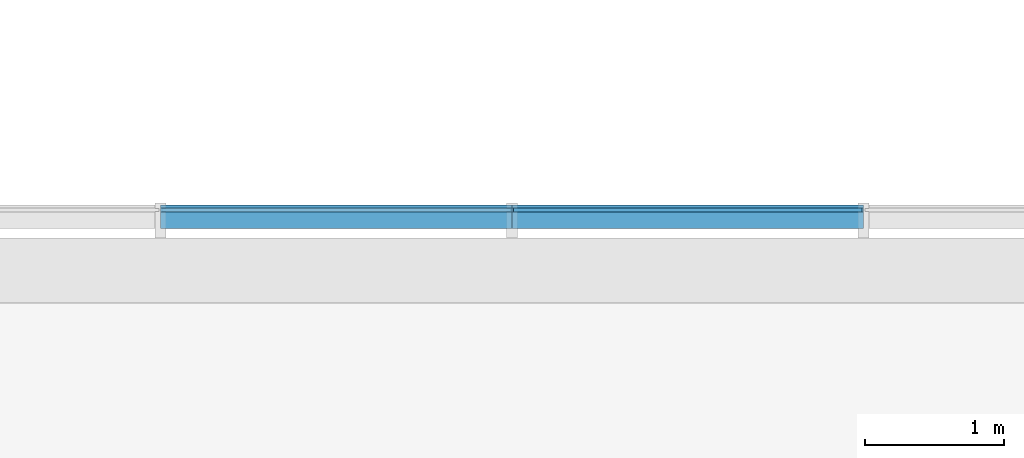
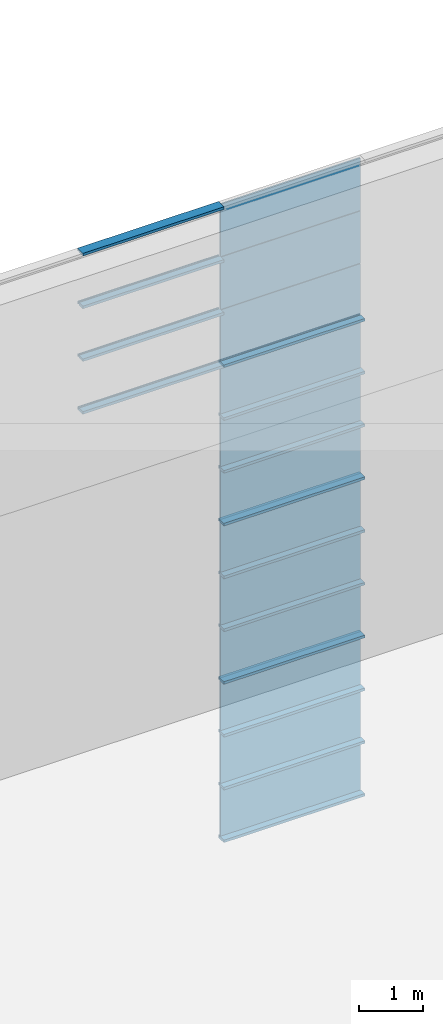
# One storey, part 50 of 105: 29 building element parts, 4 elements without a shape of their own.
"""IFC4 building model written with IfcOpenShell, lengths in millimetres."""

from ifc_helpers import new_model, entity, si_unit, converted_unit, derived_unit, direction, frame, origin_with_axes, place, context, subcontext, project, spatial, triangles, material, element, aggregate, save


model = new_model("IFC4")

# Units and contexts
model_context = context("Model", 3, precision=1e-05, world=origin_with_axes(), true_north=direction((0.0, 1.0)))
body_context = subcontext(model_context, "Body", "Model", "MODEL_VIEW")
ifc_project = project(units=[si_unit("LENGTHUNIT", "METRE", prefix="MILLI"), si_unit("AREAUNIT", "SQUARE_METRE"), si_unit("VOLUMEUNIT", "CUBIC_METRE"), converted_unit("PLANEANGLEUNIT", "DEGREE", entity("IfcLengthMeasure", 0.017453), si_unit("PLANEANGLEUNIT", "RADIAN"), dimensions=[0, 0, 0, 0, 0, 0, 0]), si_unit("SOLIDANGLEUNIT", "STERADIAN"), si_unit("MASSUNIT", "GRAM"), si_unit("TIMEUNIT", "SECOND"), si_unit("THERMODYNAMICTEMPERATUREUNIT", "DEGREE_CELSIUS"), si_unit("LUMINOUSINTENSITYUNIT", "LUMEN"), si_unit("POWERUNIT", "WATT"), derived_unit("THERMALTRANSMITTANCEUNIT", [(si_unit("POWERUNIT", "WATT"), 1), (si_unit("THERMODYNAMICTEMPERATUREUNIT", "KELVIN"), -1), (si_unit("AREAUNIT", "SQUARE_METRE"), -1)])], contexts=[model_context])

# Site, building, storey
site_placement = place(None, origin_with_axes())
site = spatial("IfcSite", under=ifc_project, at=site_placement, Name="Default Site", CompositionType="ELEMENT")
building_placement = place(site_placement, origin_with_axes())
building = spatial("IfcBuilding", under=site, at=building_placement, Name="Default Building", CompositionType="ELEMENT")
storey_placement = place(building_placement, origin_with_axes())
storey = spatial("IfcBuildingStorey", under=building, at=storey_placement, Name="OG - Story", CompositionType="ELEMENT", Elevation=0.0)

# Curtain wall, building element parts
curtain_wall_1_placement = place(storey_placement, origin_with_axes())
curtain_wall_1 = element("IfcCurtainWall", 1, at=curtain_wall_1_placement, inside=storey, Name="Fassade-004", PredefinedType="NOTDEFINED")
ifc_material_1 = material(Name="Normalglas")
building_element_part_1_placement = place(curtain_wall_1_placement, frame((33014.549222, -4389.262838, 0.0), z_axis=(0.0, 0.0, 1.0), x_axis=(1.0, 0.0, 0.0)))
building_element_part_1 = element("IfcBuildingElementPart", 2, at=building_element_part_1_placement, material=ifc_material_1, Name="Normalglas", PredefinedType="NOTDEFINED", context=body_context, shape_type="Tessellation", body=[
    triangles([(29042.632, -14.999, 995.0), (29042.632, 15.0, 995.0), (26536.316, 15.0, 995.0), (26536.316, -14.999, 995.0), (29042.632, -14.999, 5.0), (29042.632, 15.0, 5.0), (26536.316, 15.0, 5.0), (26536.316, -14.999, 5.0)], [[1, 2, 3], [1, 3, 4], [5, 6, 2], [5, 2, 1], [2, 6, 7], [2, 7, 3], [4, 3, 7], [4, 7, 8], [1, 4, 8], [1, 8, 5], [8, 7, 6], [8, 6, 5]], closed=False),
])
building_element_part_2_placement = place(curtain_wall_1_placement, frame((33014.549222, -4389.262838, 0.0), z_axis=(0.0, 0.0, 1.0), x_axis=(1.0, 0.0, 0.0)))
building_element_part_2 = element("IfcBuildingElementPart", 3, at=building_element_part_2_placement, material=ifc_material_1, Name="Normalglas", PredefinedType="NOTDEFINED", context=body_context, shape_type="Tessellation", body=[
    triangles([(29042.632, -14.999, 1995.0), (29042.632, 15.0, 1995.0), (26536.316, 15.0, 1995.0), (26536.316, -14.999, 1995.0), (29042.632, -14.999, 1005.0), (29042.632, 15.0, 1005.0), (26536.316, 15.0, 1005.0), (26536.316, -14.999, 1005.0)], [[1, 2, 3], [1, 3, 4], [5, 6, 2], [5, 2, 1], [2, 6, 7], [2, 7, 3], [4, 3, 7], [4, 7, 8], [1, 4, 8], [1, 8, 5], [8, 7, 6], [8, 6, 5]], closed=False),
])
building_element_part_3_placement = place(curtain_wall_1_placement, frame((33014.549222, -4389.262838, 0.0), z_axis=(0.0, 0.0, 1.0), x_axis=(1.0, 0.0, 0.0)))
building_element_part_3 = element("IfcBuildingElementPart", 4, at=building_element_part_3_placement, material=ifc_material_1, Name="Normalglas", PredefinedType="NOTDEFINED", context=body_context, shape_type="Tessellation", body=[
    triangles([(29042.632, -14.999, 2995.0), (29042.632, 15.0, 2995.0), (26536.316, 15.0, 2995.0), (26536.316, -14.999, 2995.0), (29042.632, -14.999, 2005.0), (29042.632, 15.0, 2005.0), (26536.316, 15.0, 2005.0), (26536.316, -14.999, 2005.0)], [[1, 2, 3], [1, 3, 4], [5, 6, 2], [5, 2, 1], [2, 6, 7], [2, 7, 3], [4, 3, 7], [4, 7, 8], [1, 4, 8], [1, 8, 5], [8, 7, 6], [8, 6, 5]], closed=False),
])
ifc_material_2 = material(Name="Blech")
building_element_part_4_placement = place(curtain_wall_1_placement, frame((33014.549222, -4389.262838, 0.0), z_axis=(0.0, 0.0, 1.0), x_axis=(1.0, 0.0, 0.0)))
building_element_part_4 = element("IfcBuildingElementPart", 5, at=building_element_part_4_placement, material=ifc_material_2, Name="Blech", PredefinedType="NOTDEFINED", context=body_context, shape_type="Tessellation", body=[
    triangles([(29052.632, 35.0, -24.999), (29052.632, 35.0, 25.0), (29052.632, 15.0, 25.0), (29052.632, 15.0, 5.0), (29052.632, -14.999, 5.0), (29052.632, -132.999, 25.0), (29052.632, -132.999, -24.999), (29052.632, -14.999, 25.0), (26526.316, -14.999, 5.0), (26526.316, -14.999, 25.0), (26526.316, -132.999, 25.0), (26526.316, -132.999, -24.999), (26526.316, 35.0, -24.999), (26526.316, 35.0, 25.0), (26526.316, 15.0, 25.0), (26526.316, 15.0, 5.0)], [[1, 2, 3], [1, 3, 4], [1, 4, 5], [1, 5, 6], [1, 6, 7], [8, 6, 5], [5, 9, 10], [5, 10, 8], [10, 11, 6], [10, 6, 8], [11, 12, 7], [11, 7, 6], [12, 13, 1], [12, 1, 7], [13, 14, 2], [13, 2, 1], [3, 2, 14], [3, 14, 15], [15, 16, 4], [15, 4, 3], [4, 16, 9], [4, 9, 5], [15, 16, 13], [13, 16, 9], [13, 9, 11], [11, 9, 10], [13, 11, 12], [15, 13, 14]], closed=False),
])
building_element_part_5_placement = place(curtain_wall_1_placement, frame((33014.549222, -4389.262838, 0.0), z_axis=(0.0, 0.0, 1.0), x_axis=(1.0, 0.0, 0.0)))
building_element_part_5 = element("IfcBuildingElementPart", 6, at=building_element_part_5_placement, material=ifc_material_2, Name="Blech", PredefinedType="NOTDEFINED", context=body_context, shape_type="Tessellation", body=[
    triangles([(29052.632, 35.0, 975.0), (29052.632, 15.0, 975.0), (29052.632, 35.0, 1025.0), (29052.632, 15.0, 995.0), (29052.632, 15.0, 1005.0), (29052.632, -14.999, 995.0), (29052.632, -14.999, 1005.0), (29052.632, -14.999, 1025.0), (29052.632, -14.999, 975.0), (29052.632, -132.999, 975.0), (29052.632, -132.999, 1025.0), (29052.632, 15.0, 1025.0), (26526.316, -14.999, 995.0), (26526.316, 15.0, 995.0), (26526.316, 15.0, 975.0), (26526.316, 35.0, 975.0), (26526.316, 35.0, 1025.0), (26526.316, 15.0, 1025.0), (26526.316, 15.0, 1005.0), (26526.316, -14.999, 1005.0), (26526.316, -14.999, 1025.0), (26526.316, -132.999, 1025.0), (26526.316, -132.999, 975.0), (26526.316, -14.999, 975.0)], [[1, 2, 3], [3, 2, 4], [3, 4, 5], [5, 4, 6], [5, 6, 7], [8, 9, 10], [8, 10, 11], [3, 5, 12], [6, 13, 14], [6, 14, 4], [4, 14, 15], [4, 15, 2], [15, 16, 1], [15, 1, 2], [1, 16, 17], [1, 17, 3], [18, 12, 3], [18, 3, 17], [12, 18, 19], [12, 19, 5], [7, 5, 19], [7, 19, 20], [8, 7, 20], [8, 20, 21], [8, 21, 22], [8, 22, 11], [11, 22, 23], [11, 23, 10], [9, 10, 23], [9, 23, 24], [9, 24, 13], [9, 13, 6], [17, 18, 16], [16, 18, 19], [16, 19, 14], [14, 19, 20], [14, 20, 13], [24, 21, 22], [24, 22, 23], [16, 14, 15]], closed=False),
])
building_element_part_6_placement = place(curtain_wall_1_placement, frame((33014.549222, -4389.262838, 0.0), z_axis=(0.0, 0.0, 1.0), x_axis=(1.0, 0.0, 0.0)))
building_element_part_6 = element("IfcBuildingElementPart", 7, at=building_element_part_6_placement, material=ifc_material_2, Name="Blech", PredefinedType="NOTDEFINED", context=body_context, shape_type="Tessellation", body=[
    triangles([(29052.632, 35.0, 1975.0), (29052.632, 15.0, 1975.0), (29052.632, 35.0, 2025.0), (29052.632, 15.0, 1995.0), (29052.632, 15.0, 2005.0), (29052.632, -14.999, 1995.0), (29052.632, -14.999, 2005.0), (29052.632, -14.999, 2025.0), (29052.632, -14.999, 1975.0), (29052.632, -132.999, 1975.0), (29052.632, -132.999, 2025.0), (29052.632, 15.0, 2025.0), (26526.316, -14.999, 1995.0), (26526.316, 15.0, 1995.0), (26526.316, 15.0, 1975.0), (26526.316, 35.0, 1975.0), (26526.316, 35.0, 2025.0), (26526.316, 15.0, 2025.0), (26526.316, 15.0, 2005.0), (26526.316, -14.999, 2005.0), (26526.316, -14.999, 2025.0), (26526.316, -132.999, 2025.0), (26526.316, -132.999, 1975.0), (26526.316, -14.999, 1975.0)], [[1, 2, 3], [3, 2, 4], [3, 4, 5], [5, 4, 6], [5, 6, 7], [8, 9, 10], [8, 10, 11], [3, 5, 12], [6, 13, 14], [6, 14, 4], [4, 14, 15], [4, 15, 2], [15, 16, 1], [15, 1, 2], [1, 16, 17], [1, 17, 3], [18, 12, 3], [18, 3, 17], [12, 18, 19], [12, 19, 5], [7, 5, 19], [7, 19, 20], [8, 7, 20], [8, 20, 21], [8, 21, 22], [8, 22, 11], [11, 22, 23], [11, 23, 10], [9, 10, 23], [9, 23, 24], [9, 24, 13], [9, 13, 6], [17, 18, 16], [16, 18, 19], [16, 19, 14], [14, 19, 20], [14, 20, 13], [24, 21, 22], [24, 22, 23], [16, 14, 15]], closed=False),
])
building_element_part_7_placement = place(curtain_wall_1_placement, frame((33014.549222, -4389.262838, 0.0), z_axis=(0.0, 0.0, 1.0), x_axis=(1.0, 0.0, 0.0)))
building_element_part_7 = element("IfcBuildingElementPart", 8, at=building_element_part_7_placement, material=ifc_material_2, Name="Blech", PredefinedType="NOTDEFINED", context=body_context, shape_type="Tessellation", body=[
    triangles([(29052.632, 15.0, 2975.0), (29052.632, 15.0, 2995.0), (29052.632, 35.0, 3025.0), (29052.632, -14.999, 2995.0), (29052.632, -132.999, 2975.0), (29052.632, -14.999, 2975.0), (29052.632, -132.999, 3025.0), (29052.632, 35.0, 2975.0), (26526.316, -14.999, 2995.0), (26526.316, 15.0, 2995.0), (26526.316, 15.0, 2975.0), (26526.316, 35.0, 2975.0), (26526.316, 35.0, 3025.0), (26526.316, -132.999, 3025.0), (26526.316, -132.999, 2975.0), (26526.316, -14.999, 2975.0)], [[1, 2, 3], [3, 2, 4], [3, 4, 5], [5, 4, 6], [3, 5, 7], [1, 3, 8], [2, 4, 9], [2, 9, 10], [11, 1, 2], [11, 2, 10], [1, 11, 12], [1, 12, 8], [13, 3, 8], [13, 8, 12], [14, 7, 3], [14, 3, 13], [15, 5, 7], [15, 7, 14], [16, 6, 5], [16, 5, 15], [4, 6, 16], [4, 16, 9], [13, 12, 11], [13, 11, 10], [13, 10, 9], [13, 9, 15], [13, 15, 14], [16, 15, 9]], closed=False),
])
aggregate(curtain_wall_1, [building_element_part_1, building_element_part_2, building_element_part_3, building_element_part_4, building_element_part_5, building_element_part_6, building_element_part_7])

curtain_wall_2_placement = place(storey_placement, origin_with_axes())
curtain_wall_2 = element("IfcCurtainWall", 9, at=curtain_wall_2_placement, inside=storey, Name="Fassade-004", PredefinedType="NOTDEFINED")
building_element_part_8_placement = place(curtain_wall_2_placement, frame((33014.549222, -4389.262838, 3000.0), z_axis=(0.0, 0.0, 1.0), x_axis=(1.0, 0.0, 0.0)))
building_element_part_8 = element("IfcBuildingElementPart", 10, at=building_element_part_8_placement, material=ifc_material_1, Name="Normalglas", PredefinedType="NOTDEFINED", context=body_context, shape_type="Tessellation", body=[
    triangles([(29042.632, -14.999, 995.0), (29042.632, 15.0, 995.0), (26536.316, 15.0, 995.0), (26536.316, -14.999, 995.0), (29042.632, -14.999, 5.0), (29042.632, 15.0, 5.0), (26536.316, 15.0, 5.0), (26536.316, -14.999, 5.0)], [[1, 2, 3], [1, 3, 4], [5, 6, 2], [5, 2, 1], [2, 6, 7], [2, 7, 3], [4, 3, 7], [4, 7, 8], [1, 4, 8], [1, 8, 5], [8, 7, 6], [8, 6, 5]], closed=False),
])
building_element_part_9_placement = place(curtain_wall_2_placement, frame((33014.549222, -4389.262838, 3000.0), z_axis=(0.0, 0.0, 1.0), x_axis=(1.0, 0.0, 0.0)))
building_element_part_9 = element("IfcBuildingElementPart", 11, at=building_element_part_9_placement, material=ifc_material_1, Name="Normalglas", PredefinedType="NOTDEFINED", context=body_context, shape_type="Tessellation", body=[
    triangles([(29042.632, -14.999, 1995.0), (29042.632, 15.0, 1995.0), (26536.316, 15.0, 1995.0), (26536.316, -14.999, 1995.0), (29042.632, -14.999, 1005.0), (29042.632, 15.0, 1005.0), (26536.316, 15.0, 1005.0), (26536.316, -14.999, 1005.0)], [[1, 2, 3], [1, 3, 4], [5, 6, 2], [5, 2, 1], [2, 6, 7], [2, 7, 3], [4, 3, 7], [4, 7, 8], [1, 4, 8], [1, 8, 5], [8, 7, 6], [8, 6, 5]], closed=False),
])
building_element_part_10_placement = place(curtain_wall_2_placement, frame((33014.549222, -4389.262838, 3000.0), z_axis=(0.0, 0.0, 1.0), x_axis=(1.0, 0.0, 0.0)))
building_element_part_10 = element("IfcBuildingElementPart", 12, at=building_element_part_10_placement, material=ifc_material_1, Name="Normalglas", PredefinedType="NOTDEFINED", context=body_context, shape_type="Tessellation", body=[
    triangles([(29042.632, -14.999, 2995.0), (29042.632, 15.0, 2995.0), (26536.316, 15.0, 2995.0), (26536.316, -14.999, 2995.0), (29042.632, -14.999, 2005.0), (29042.632, 15.0, 2005.0), (26536.316, 15.0, 2005.0), (26536.316, -14.999, 2005.0)], [[1, 2, 3], [1, 3, 4], [5, 6, 2], [5, 2, 1], [2, 6, 7], [2, 7, 3], [4, 3, 7], [4, 7, 8], [1, 4, 8], [1, 8, 5], [8, 7, 6], [8, 6, 5]], closed=False),
])
building_element_part_11_placement = place(curtain_wall_2_placement, frame((33014.549222, -4389.262838, 3000.0), z_axis=(0.0, 0.0, 1.0), x_axis=(1.0, 0.0, 0.0)))
building_element_part_11 = element("IfcBuildingElementPart", 13, at=building_element_part_11_placement, material=ifc_material_2, Name="Blech", PredefinedType="NOTDEFINED", context=body_context, shape_type="Tessellation", body=[
    triangles([(29052.632, 35.0, -24.999), (29052.632, 35.0, 25.0), (29052.632, 15.0, 25.0), (29052.632, 15.0, 5.0), (29052.632, -14.999, 5.0), (29052.632, -132.999, 25.0), (29052.632, -132.999, -24.999), (29052.632, -14.999, 25.0), (26526.316, -14.999, 5.0), (26526.316, -14.999, 25.0), (26526.316, -132.999, 25.0), (26526.316, -132.999, -24.999), (26526.316, 35.0, -24.999), (26526.316, 35.0, 25.0), (26526.316, 15.0, 25.0), (26526.316, 15.0, 5.0)], [[1, 2, 3], [1, 3, 4], [1, 4, 5], [1, 5, 6], [1, 6, 7], [8, 6, 5], [5, 9, 10], [5, 10, 8], [10, 11, 6], [10, 6, 8], [11, 12, 7], [11, 7, 6], [12, 13, 1], [12, 1, 7], [13, 14, 2], [13, 2, 1], [3, 2, 14], [3, 14, 15], [15, 16, 4], [15, 4, 3], [4, 16, 9], [4, 9, 5], [15, 16, 13], [13, 16, 9], [13, 9, 11], [11, 9, 10], [13, 11, 12], [15, 13, 14]], closed=False),
])
building_element_part_12_placement = place(curtain_wall_2_placement, frame((33014.549222, -4389.262838, 3000.0), z_axis=(0.0, 0.0, 1.0), x_axis=(1.0, 0.0, 0.0)))
building_element_part_12 = element("IfcBuildingElementPart", 14, at=building_element_part_12_placement, material=ifc_material_2, Name="Blech", PredefinedType="NOTDEFINED", context=body_context, shape_type="Tessellation", body=[
    triangles([(29052.632, 35.0, 975.0), (29052.632, 15.0, 975.0), (29052.632, 35.0, 1025.0), (29052.632, 15.0, 995.0), (29052.632, 15.0, 1005.0), (29052.632, -14.999, 995.0), (29052.632, -14.999, 1005.0), (29052.632, -14.999, 1025.0), (29052.632, -14.999, 975.0), (29052.632, -132.999, 975.0), (29052.632, -132.999, 1025.0), (29052.632, 15.0, 1025.0), (26526.316, -14.999, 995.0), (26526.316, 15.0, 995.0), (26526.316, 15.0, 975.0), (26526.316, 35.0, 975.0), (26526.316, 35.0, 1025.0), (26526.316, 15.0, 1025.0), (26526.316, 15.0, 1005.0), (26526.316, -14.999, 1005.0), (26526.316, -14.999, 1025.0), (26526.316, -132.999, 1025.0), (26526.316, -132.999, 975.0), (26526.316, -14.999, 975.0)], [[1, 2, 3], [3, 2, 4], [3, 4, 5], [5, 4, 6], [5, 6, 7], [8, 9, 10], [8, 10, 11], [3, 5, 12], [6, 13, 14], [6, 14, 4], [4, 14, 15], [4, 15, 2], [15, 16, 1], [15, 1, 2], [1, 16, 17], [1, 17, 3], [18, 12, 3], [18, 3, 17], [12, 18, 19], [12, 19, 5], [7, 5, 19], [7, 19, 20], [8, 7, 20], [8, 20, 21], [8, 21, 22], [8, 22, 11], [11, 22, 23], [11, 23, 10], [9, 10, 23], [9, 23, 24], [9, 24, 13], [9, 13, 6], [17, 18, 16], [16, 18, 19], [16, 19, 14], [14, 19, 20], [14, 20, 13], [24, 21, 22], [24, 22, 23], [16, 14, 15]], closed=False),
])
building_element_part_13_placement = place(curtain_wall_2_placement, frame((33014.549222, -4389.262838, 3000.0), z_axis=(0.0, 0.0, 1.0), x_axis=(1.0, 0.0, 0.0)))
building_element_part_13 = element("IfcBuildingElementPart", 15, at=building_element_part_13_placement, material=ifc_material_2, Name="Blech", PredefinedType="NOTDEFINED", context=body_context, shape_type="Tessellation", body=[
    triangles([(29052.632, 35.0, 1975.0), (29052.632, 15.0, 1975.0), (29052.632, 35.0, 2025.0), (29052.632, 15.0, 1995.0), (29052.632, 15.0, 2005.0), (29052.632, -14.999, 1995.0), (29052.632, -14.999, 2005.0), (29052.632, -14.999, 2025.0), (29052.632, -14.999, 1975.0), (29052.632, -132.999, 1975.0), (29052.632, -132.999, 2025.0), (29052.632, 15.0, 2025.0), (26526.316, -14.999, 1995.0), (26526.316, 15.0, 1995.0), (26526.316, 15.0, 1975.0), (26526.316, 35.0, 1975.0), (26526.316, 35.0, 2025.0), (26526.316, 15.0, 2025.0), (26526.316, 15.0, 2005.0), (26526.316, -14.999, 2005.0), (26526.316, -14.999, 2025.0), (26526.316, -132.999, 2025.0), (26526.316, -132.999, 1975.0), (26526.316, -14.999, 1975.0)], [[1, 2, 3], [3, 2, 4], [3, 4, 5], [5, 4, 6], [5, 6, 7], [8, 9, 10], [8, 10, 11], [3, 5, 12], [6, 13, 14], [6, 14, 4], [4, 14, 15], [4, 15, 2], [15, 16, 1], [15, 1, 2], [1, 16, 17], [1, 17, 3], [18, 12, 3], [18, 3, 17], [12, 18, 19], [12, 19, 5], [7, 5, 19], [7, 19, 20], [8, 7, 20], [8, 20, 21], [8, 21, 22], [8, 22, 11], [11, 22, 23], [11, 23, 10], [9, 10, 23], [9, 23, 24], [9, 24, 13], [9, 13, 6], [17, 18, 16], [16, 18, 19], [16, 19, 14], [14, 19, 20], [14, 20, 13], [24, 21, 22], [24, 22, 23], [16, 14, 15]], closed=False),
])
building_element_part_14_placement = place(curtain_wall_2_placement, frame((33014.549222, -4389.262838, 3000.0), z_axis=(0.0, 0.0, 1.0), x_axis=(1.0, 0.0, 0.0)))
building_element_part_14 = element("IfcBuildingElementPart", 16, at=building_element_part_14_placement, material=ifc_material_2, Name="Blech", PredefinedType="NOTDEFINED", context=body_context, shape_type="Tessellation", body=[
    triangles([(29052.632, 15.0, 2975.0), (29052.632, 15.0, 2995.0), (29052.632, 35.0, 3025.0), (29052.632, -14.999, 2995.0), (29052.632, -132.999, 2975.0), (29052.632, -14.999, 2975.0), (29052.632, -132.999, 3025.0), (29052.632, 35.0, 2975.0), (26526.316, -14.999, 2995.0), (26526.316, 15.0, 2995.0), (26526.316, 15.0, 2975.0), (26526.316, 35.0, 2975.0), (26526.316, 35.0, 3025.0), (26526.316, -132.999, 3025.0), (26526.316, -132.999, 2975.0), (26526.316, -14.999, 2975.0)], [[1, 2, 3], [3, 2, 4], [3, 4, 5], [5, 4, 6], [3, 5, 7], [1, 3, 8], [2, 4, 9], [2, 9, 10], [11, 1, 2], [11, 2, 10], [1, 11, 12], [1, 12, 8], [13, 3, 8], [13, 8, 12], [14, 7, 3], [14, 3, 13], [15, 5, 7], [15, 7, 14], [16, 6, 5], [16, 5, 15], [4, 6, 16], [4, 16, 9], [13, 12, 11], [13, 11, 10], [13, 10, 9], [13, 9, 15], [13, 15, 14], [16, 15, 9]], closed=False),
])
aggregate(curtain_wall_2, [building_element_part_8, building_element_part_9, building_element_part_10, building_element_part_11, building_element_part_12, building_element_part_13, building_element_part_14])

curtain_wall_3_placement = place(storey_placement, origin_with_axes())
curtain_wall_3 = element("IfcCurtainWall", 17, at=curtain_wall_3_placement, inside=storey, Name="Fassade-004", PredefinedType="NOTDEFINED")
building_element_part_15_placement = place(curtain_wall_3_placement, frame((33014.549222, -4389.262838, 6000.0), z_axis=(0.0, 0.0, 1.0), x_axis=(1.0, 0.0, 0.0)))
building_element_part_15 = element("IfcBuildingElementPart", 18, at=building_element_part_15_placement, material=ifc_material_1, Name="Normalglas", PredefinedType="NOTDEFINED", context=body_context, shape_type="Tessellation", body=[
    triangles([(29042.632, -14.999, 995.0), (29042.632, 15.0, 995.0), (26536.316, 15.0, 995.0), (26536.316, -14.999, 995.0), (29042.632, -14.999, 5.0), (29042.632, 15.0, 5.0), (26536.316, 15.0, 5.0), (26536.316, -14.999, 5.0)], [[1, 2, 3], [1, 3, 4], [5, 6, 2], [5, 2, 1], [2, 6, 7], [2, 7, 3], [4, 3, 7], [4, 7, 8], [1, 4, 8], [1, 8, 5], [8, 7, 6], [8, 6, 5]], closed=False),
])
building_element_part_16_placement = place(curtain_wall_3_placement, frame((33014.549222, -4389.262838, 6000.0), z_axis=(0.0, 0.0, 1.0), x_axis=(1.0, 0.0, 0.0)))
building_element_part_16 = element("IfcBuildingElementPart", 19, at=building_element_part_16_placement, material=ifc_material_1, Name="Normalglas", PredefinedType="NOTDEFINED", context=body_context, shape_type="Tessellation", body=[
    triangles([(29042.632, -14.999, 1995.0), (29042.632, 15.0, 1995.0), (26536.316, 15.0, 1995.0), (26536.316, -14.999, 1995.0), (29042.632, -14.999, 1005.0), (29042.632, 15.0, 1005.0), (26536.316, 15.0, 1005.0), (26536.316, -14.999, 1005.0)], [[1, 2, 3], [1, 3, 4], [5, 6, 2], [5, 2, 1], [2, 6, 7], [2, 7, 3], [4, 3, 7], [4, 7, 8], [1, 4, 8], [1, 8, 5], [8, 7, 6], [8, 6, 5]], closed=False),
])
building_element_part_17_placement = place(curtain_wall_3_placement, frame((33014.549222, -4389.262838, 6000.0), z_axis=(0.0, 0.0, 1.0), x_axis=(1.0, 0.0, 0.0)))
building_element_part_17 = element("IfcBuildingElementPart", 20, at=building_element_part_17_placement, material=ifc_material_1, Name="Normalglas", PredefinedType="NOTDEFINED", context=body_context, shape_type="Tessellation", body=[
    triangles([(29042.632, -14.999, 2995.0), (29042.632, 15.0, 2995.0), (26536.316, 15.0, 2995.0), (26536.316, -14.999, 2995.0), (29042.632, -14.999, 2005.0), (29042.632, 15.0, 2005.0), (26536.316, 15.0, 2005.0), (26536.316, -14.999, 2005.0)], [[1, 2, 3], [1, 3, 4], [5, 6, 2], [5, 2, 1], [2, 6, 7], [2, 7, 3], [4, 3, 7], [4, 7, 8], [1, 4, 8], [1, 8, 5], [8, 7, 6], [8, 6, 5]], closed=False),
])
building_element_part_18_placement = place(curtain_wall_3_placement, frame((33014.549222, -4389.262838, 6000.0), z_axis=(0.0, 0.0, 1.0), x_axis=(1.0, 0.0, 0.0)))
building_element_part_18 = element("IfcBuildingElementPart", 21, at=building_element_part_18_placement, material=ifc_material_2, Name="Blech", PredefinedType="NOTDEFINED", context=body_context, shape_type="Tessellation", body=[
    triangles([(29052.632, 35.0, -24.999), (29052.632, 35.0, 25.0), (29052.632, 15.0, 25.0), (29052.632, 15.0, 5.0), (29052.632, -14.999, 5.0), (29052.632, -132.999, 25.0), (29052.632, -132.999, -24.999), (29052.632, -14.999, 25.0), (26526.316, -14.999, 5.0), (26526.316, -14.999, 25.0), (26526.316, -132.999, 25.0), (26526.316, -132.999, -24.999), (26526.316, 35.0, -24.999), (26526.316, 35.0, 25.0), (26526.316, 15.0, 25.0), (26526.316, 15.0, 5.0)], [[1, 2, 3], [1, 3, 4], [1, 4, 5], [1, 5, 6], [1, 6, 7], [8, 6, 5], [5, 9, 10], [5, 10, 8], [10, 11, 6], [10, 6, 8], [11, 12, 7], [11, 7, 6], [12, 13, 1], [12, 1, 7], [13, 14, 2], [13, 2, 1], [3, 2, 14], [3, 14, 15], [15, 16, 4], [15, 4, 3], [4, 16, 9], [4, 9, 5], [15, 16, 13], [13, 16, 9], [13, 9, 11], [11, 9, 10], [13, 11, 12], [15, 13, 14]], closed=False),
])
building_element_part_19_placement = place(curtain_wall_3_placement, frame((33014.549222, -4389.262838, 6000.0), z_axis=(0.0, 0.0, 1.0), x_axis=(1.0, 0.0, 0.0)))
building_element_part_19 = element("IfcBuildingElementPart", 22, at=building_element_part_19_placement, material=ifc_material_2, Name="Blech", PredefinedType="NOTDEFINED", context=body_context, shape_type="Tessellation", body=[
    triangles([(29052.632, 35.0, 975.0), (29052.632, 15.0, 975.0), (29052.632, 35.0, 1025.0), (29052.632, 15.0, 995.0), (29052.632, 15.0, 1005.0), (29052.632, -14.999, 995.0), (29052.632, -14.999, 1005.0), (29052.632, -14.999, 1025.0), (29052.632, -14.999, 975.0), (29052.632, -132.999, 975.0), (29052.632, -132.999, 1025.0), (29052.632, 15.0, 1025.0), (26526.316, -14.999, 995.0), (26526.316, 15.0, 995.0), (26526.316, 15.0, 975.0), (26526.316, 35.0, 975.0), (26526.316, 35.0, 1025.0), (26526.316, 15.0, 1025.0), (26526.316, 15.0, 1005.0), (26526.316, -14.999, 1005.0), (26526.316, -14.999, 1025.0), (26526.316, -132.999, 1025.0), (26526.316, -132.999, 975.0), (26526.316, -14.999, 975.0)], [[1, 2, 3], [3, 2, 4], [3, 4, 5], [5, 4, 6], [5, 6, 7], [8, 9, 10], [8, 10, 11], [3, 5, 12], [6, 13, 14], [6, 14, 4], [4, 14, 15], [4, 15, 2], [15, 16, 1], [15, 1, 2], [1, 16, 17], [1, 17, 3], [18, 12, 3], [18, 3, 17], [12, 18, 19], [12, 19, 5], [7, 5, 19], [7, 19, 20], [8, 7, 20], [8, 20, 21], [8, 21, 22], [8, 22, 11], [11, 22, 23], [11, 23, 10], [9, 10, 23], [9, 23, 24], [9, 24, 13], [9, 13, 6], [17, 18, 16], [16, 18, 19], [16, 19, 14], [14, 19, 20], [14, 20, 13], [24, 21, 22], [24, 22, 23], [16, 14, 15]], closed=False),
])
building_element_part_20_placement = place(curtain_wall_3_placement, frame((33014.549222, -4389.262838, 6000.0), z_axis=(0.0, 0.0, 1.0), x_axis=(1.0, 0.0, 0.0)))
building_element_part_20 = element("IfcBuildingElementPart", 23, at=building_element_part_20_placement, material=ifc_material_2, Name="Blech", PredefinedType="NOTDEFINED", context=body_context, shape_type="Tessellation", body=[
    triangles([(29052.632, 35.0, 1975.0), (29052.632, 15.0, 1975.0), (29052.632, 35.0, 2025.0), (29052.632, 15.0, 1995.0), (29052.632, 15.0, 2005.0), (29052.632, -14.999, 1995.0), (29052.632, -14.999, 2005.0), (29052.632, -14.999, 2025.0), (29052.632, -14.999, 1975.0), (29052.632, -132.999, 1975.0), (29052.632, -132.999, 2025.0), (29052.632, 15.0, 2025.0), (26526.316, -14.999, 1995.0), (26526.316, 15.0, 1995.0), (26526.316, 15.0, 1975.0), (26526.316, 35.0, 1975.0), (26526.316, 35.0, 2025.0), (26526.316, 15.0, 2025.0), (26526.316, 15.0, 2005.0), (26526.316, -14.999, 2005.0), (26526.316, -14.999, 2025.0), (26526.316, -132.999, 2025.0), (26526.316, -132.999, 1975.0), (26526.316, -14.999, 1975.0)], [[1, 2, 3], [3, 2, 4], [3, 4, 5], [5, 4, 6], [5, 6, 7], [8, 9, 10], [8, 10, 11], [3, 5, 12], [6, 13, 14], [6, 14, 4], [4, 14, 15], [4, 15, 2], [15, 16, 1], [15, 1, 2], [1, 16, 17], [1, 17, 3], [18, 12, 3], [18, 3, 17], [12, 18, 19], [12, 19, 5], [7, 5, 19], [7, 19, 20], [8, 7, 20], [8, 20, 21], [8, 21, 22], [8, 22, 11], [11, 22, 23], [11, 23, 10], [9, 10, 23], [9, 23, 24], [9, 24, 13], [9, 13, 6], [17, 18, 16], [16, 18, 19], [16, 19, 14], [14, 19, 20], [14, 20, 13], [24, 21, 22], [24, 22, 23], [16, 14, 15]], closed=False),
])
building_element_part_21_placement = place(curtain_wall_3_placement, frame((33014.549222, -4389.262838, 6000.0), z_axis=(0.0, 0.0, 1.0), x_axis=(1.0, 0.0, 0.0)))
building_element_part_21 = element("IfcBuildingElementPart", 24, at=building_element_part_21_placement, material=ifc_material_2, Name="Blech", PredefinedType="NOTDEFINED", context=body_context, shape_type="Tessellation", body=[
    triangles([(29052.632, 15.0, 2975.0), (29052.632, 15.0, 2995.0), (29052.632, 35.0, 3025.0), (29052.632, -14.999, 2995.0), (29052.632, -132.999, 2975.0), (29052.632, -14.999, 2975.0), (29052.632, -132.999, 3025.0), (29052.632, 35.0, 2975.0), (26526.316, -14.999, 2995.0), (26526.316, 15.0, 2995.0), (26526.316, 15.0, 2975.0), (26526.316, 35.0, 2975.0), (26526.316, 35.0, 3025.0), (26526.316, -132.999, 3025.0), (26526.316, -132.999, 2975.0), (26526.316, -14.999, 2975.0)], [[1, 2, 3], [3, 2, 4], [3, 4, 5], [5, 4, 6], [3, 5, 7], [1, 3, 8], [2, 4, 9], [2, 9, 10], [11, 1, 2], [11, 2, 10], [1, 11, 12], [1, 12, 8], [13, 3, 8], [13, 8, 12], [14, 7, 3], [14, 3, 13], [15, 5, 7], [15, 7, 14], [16, 6, 5], [16, 5, 15], [4, 6, 16], [4, 16, 9], [13, 12, 11], [13, 11, 10], [13, 10, 9], [13, 9, 15], [13, 15, 14], [16, 15, 9]], closed=False),
])
aggregate(curtain_wall_3, [building_element_part_15, building_element_part_16, building_element_part_17, building_element_part_18, building_element_part_19, building_element_part_20, building_element_part_21])

curtain_wall_4_placement = place(storey_placement, origin_with_axes())
curtain_wall_4 = element("IfcCurtainWall", 25, at=curtain_wall_4_placement, inside=storey, Name="Fassade-004", PredefinedType="NOTDEFINED")
building_element_part_22_placement = place(curtain_wall_4_placement, frame((33014.549222, -4389.262838, 9000.0), z_axis=(0.0, 0.0, 1.0), x_axis=(1.0, 0.0, 0.0)))
building_element_part_22 = element("IfcBuildingElementPart", 26, at=building_element_part_22_placement, material=ifc_material_1, Name="Normalglas", PredefinedType="NOTDEFINED", context=body_context, shape_type="Tessellation", body=[
    triangles([(29042.632, -14.999, 995.0), (29042.632, 15.0, 995.0), (26536.316, 15.0, 995.0), (26536.316, -14.999, 995.0), (29042.632, -14.999, 5.0), (29042.632, 15.0, 5.0), (26536.316, 15.0, 5.0), (26536.316, -14.999, 5.0)], [[1, 2, 3], [1, 3, 4], [5, 6, 2], [5, 2, 1], [2, 6, 7], [2, 7, 3], [4, 3, 7], [4, 7, 8], [1, 4, 8], [1, 8, 5], [8, 7, 6], [8, 6, 5]], closed=False),
])
building_element_part_23_placement = place(curtain_wall_4_placement, frame((33014.549222, -4389.262838, 9000.0), z_axis=(0.0, 0.0, 1.0), x_axis=(1.0, 0.0, 0.0)))
building_element_part_23 = element("IfcBuildingElementPart", 27, at=building_element_part_23_placement, material=ifc_material_1, Name="Normalglas", PredefinedType="NOTDEFINED", context=body_context, shape_type="Tessellation", body=[
    triangles([(29042.632, -14.999, 1995.0), (29042.632, 15.0, 1995.0), (26536.316, 15.0, 1995.0), (26536.316, -14.999, 1995.0), (29042.632, -14.999, 1005.0), (29042.632, 15.0, 1005.0), (26536.316, 15.0, 1005.0), (26536.316, -14.999, 1005.0)], [[1, 2, 3], [1, 3, 4], [5, 6, 2], [5, 2, 1], [2, 6, 7], [2, 7, 3], [4, 3, 7], [4, 7, 8], [1, 4, 8], [1, 8, 5], [8, 7, 6], [8, 6, 5]], closed=False),
])
building_element_part_24_placement = place(curtain_wall_4_placement, frame((33014.549222, -4389.262838, 9000.0), z_axis=(0.0, 0.0, 1.0), x_axis=(1.0, 0.0, 0.0)))
building_element_part_24 = element("IfcBuildingElementPart", 28, at=building_element_part_24_placement, material=ifc_material_1, Name="Normalglas", PredefinedType="NOTDEFINED", context=body_context, shape_type="Tessellation", body=[
    triangles([(29042.632, -14.999, 2995.0), (29042.632, 15.0, 2995.0), (26536.316, 15.0, 2995.0), (26536.316, -14.999, 2995.0), (29042.632, -14.999, 2005.0), (29042.632, 15.0, 2005.0), (26536.316, 15.0, 2005.0), (26536.316, -14.999, 2005.0)], [[1, 2, 3], [1, 3, 4], [5, 6, 2], [5, 2, 1], [2, 6, 7], [2, 7, 3], [4, 3, 7], [4, 7, 8], [1, 4, 8], [1, 8, 5], [8, 7, 6], [8, 6, 5]], closed=False),
])
building_element_part_25_placement = place(curtain_wall_4_placement, frame((33014.549222, -4389.262838, 9000.0), z_axis=(0.0, 0.0, 1.0), x_axis=(1.0, 0.0, 0.0)))
building_element_part_25 = element("IfcBuildingElementPart", 29, at=building_element_part_25_placement, material=ifc_material_2, Name="Blech", PredefinedType="NOTDEFINED", context=body_context, shape_type="Tessellation", body=[
    triangles([(26526.316, 35.0, -24.999), (26526.316, 35.0, 25.0), (26526.316, 15.0, 25.0), (26526.316, 15.0, 5.0), (26526.316, -14.999, 5.0), (26526.316, -132.999, 25.0), (26526.316, -132.999, -24.999), (26526.316, -14.999, 25.0), (24000.0, -14.999, 5.0), (24000.0, -14.999, 25.0), (24000.0, -132.999, 25.0), (24000.0, -132.999, -24.999), (24000.0, 35.0, -24.999), (24000.0, 35.0, 25.0), (24000.0, 15.0, 25.0), (24000.0, 15.0, 5.0)], [[1, 2, 3], [1, 3, 4], [1, 4, 5], [1, 5, 6], [1, 6, 7], [8, 6, 5], [5, 9, 10], [5, 10, 8], [10, 11, 6], [10, 6, 8], [11, 12, 7], [11, 7, 6], [12, 13, 1], [12, 1, 7], [13, 14, 2], [13, 2, 1], [3, 2, 14], [3, 14, 15], [15, 16, 4], [15, 4, 3], [4, 16, 9], [4, 9, 5], [15, 16, 13], [13, 16, 9], [13, 9, 11], [11, 9, 10], [13, 11, 12], [15, 13, 14]], closed=False),
])
building_element_part_26_placement = place(curtain_wall_4_placement, frame((33014.549222, -4389.262838, 9000.0), z_axis=(0.0, 0.0, 1.0), x_axis=(1.0, 0.0, 0.0)))
building_element_part_26 = element("IfcBuildingElementPart", 30, at=building_element_part_26_placement, material=ifc_material_2, Name="Blech", PredefinedType="NOTDEFINED", context=body_context, shape_type="Tessellation", body=[
    triangles([(29052.632, 35.0, -24.999), (29052.632, 35.0, 25.0), (29052.632, 15.0, 25.0), (29052.632, 15.0, 5.0), (29052.632, -14.999, 5.0), (29052.632, -132.999, 25.0), (29052.632, -132.999, -24.999), (29052.632, -14.999, 25.0), (26526.316, -14.999, 5.0), (26526.316, -14.999, 25.0), (26526.316, -132.999, 25.0), (26526.316, -132.999, -24.999), (26526.316, 35.0, -24.999), (26526.316, 35.0, 25.0), (26526.316, 15.0, 25.0), (26526.316, 15.0, 5.0)], [[1, 2, 3], [1, 3, 4], [1, 4, 5], [1, 5, 6], [1, 6, 7], [8, 6, 5], [5, 9, 10], [5, 10, 8], [10, 11, 6], [10, 6, 8], [11, 12, 7], [11, 7, 6], [12, 13, 1], [12, 1, 7], [13, 14, 2], [13, 2, 1], [3, 2, 14], [3, 14, 15], [15, 16, 4], [15, 4, 3], [4, 16, 9], [4, 9, 5], [15, 16, 13], [13, 16, 9], [13, 9, 11], [11, 9, 10], [13, 11, 12], [15, 13, 14]], closed=False),
])
building_element_part_27_placement = place(curtain_wall_4_placement, frame((33014.549222, -4389.262838, 9000.0), z_axis=(0.0, 0.0, 1.0), x_axis=(1.0, 0.0, 0.0)))
building_element_part_27 = element("IfcBuildingElementPart", 31, at=building_element_part_27_placement, material=ifc_material_2, Name="Blech", PredefinedType="NOTDEFINED", context=body_context, shape_type="Tessellation", body=[
    triangles([(26526.316, 35.0, 975.0), (26526.316, 15.0, 975.0), (26526.316, 35.0, 1025.0), (26526.316, 15.0, 995.0), (26526.316, 15.0, 1005.0), (26526.316, -14.999, 995.0), (26526.316, -14.999, 1005.0), (26526.316, -14.999, 1025.0), (26526.316, -14.999, 975.0), (26526.316, -132.999, 975.0), (26526.316, -132.999, 1025.0), (26526.316, 15.0, 1025.0), (24000.0, -14.999, 995.0), (24000.0, 15.0, 995.0), (24000.0, 15.0, 975.0), (24000.0, 35.0, 975.0), (24000.0, 35.0, 1025.0), (24000.0, 15.0, 1025.0), (24000.0, 15.0, 1005.0), (24000.0, -14.999, 1005.0), (24000.0, -14.999, 1025.0), (24000.0, -132.999, 1025.0), (24000.0, -132.999, 975.0), (24000.0, -14.999, 975.0)], [[1, 2, 3], [3, 2, 4], [3, 4, 5], [5, 4, 6], [5, 6, 7], [8, 9, 10], [8, 10, 11], [3, 5, 12], [6, 13, 14], [6, 14, 4], [4, 14, 15], [4, 15, 2], [15, 16, 1], [15, 1, 2], [1, 16, 17], [1, 17, 3], [18, 12, 3], [18, 3, 17], [12, 18, 19], [12, 19, 5], [7, 5, 19], [7, 19, 20], [8, 7, 20], [8, 20, 21], [8, 21, 22], [8, 22, 11], [11, 22, 23], [11, 23, 10], [9, 10, 23], [9, 23, 24], [9, 24, 13], [9, 13, 6], [17, 18, 16], [16, 18, 19], [16, 19, 14], [14, 19, 20], [14, 20, 13], [24, 21, 22], [24, 22, 23], [16, 14, 15]], closed=False),
])
building_element_part_28_placement = place(curtain_wall_4_placement, frame((33014.549222, -4389.262838, 9000.0), z_axis=(0.0, 0.0, 1.0), x_axis=(1.0, 0.0, 0.0)))
building_element_part_28 = element("IfcBuildingElementPart", 32, at=building_element_part_28_placement, material=ifc_material_2, Name="Blech", PredefinedType="NOTDEFINED", context=body_context, shape_type="Tessellation", body=[
    triangles([(26526.316, 35.0, 1975.0), (26526.316, 15.0, 1975.0), (26526.316, 35.0, 2025.0), (26526.316, 15.0, 1995.0), (26526.316, 15.0, 2005.0), (26526.316, -14.999, 1995.0), (26526.316, -14.999, 2005.0), (26526.316, -14.999, 2025.0), (26526.316, -14.999, 1975.0), (26526.316, -132.999, 1975.0), (26526.316, -132.999, 2025.0), (26526.316, 15.0, 2025.0), (24000.0, -14.999, 1995.0), (24000.0, 15.0, 1995.0), (24000.0, 15.0, 1975.0), (24000.0, 35.0, 1975.0), (24000.0, 35.0, 2025.0), (24000.0, 15.0, 2025.0), (24000.0, 15.0, 2005.0), (24000.0, -14.999, 2005.0), (24000.0, -14.999, 2025.0), (24000.0, -132.999, 2025.0), (24000.0, -132.999, 1975.0), (24000.0, -14.999, 1975.0)], [[1, 2, 3], [3, 2, 4], [3, 4, 5], [5, 4, 6], [5, 6, 7], [8, 9, 10], [8, 10, 11], [3, 5, 12], [6, 13, 14], [6, 14, 4], [4, 14, 15], [4, 15, 2], [15, 16, 1], [15, 1, 2], [1, 16, 17], [1, 17, 3], [18, 12, 3], [18, 3, 17], [12, 18, 19], [12, 19, 5], [7, 5, 19], [7, 19, 20], [8, 7, 20], [8, 20, 21], [8, 21, 22], [8, 22, 11], [11, 22, 23], [11, 23, 10], [9, 10, 23], [9, 23, 24], [9, 24, 13], [9, 13, 6], [17, 18, 16], [16, 18, 19], [16, 19, 14], [14, 19, 20], [14, 20, 13], [24, 21, 22], [24, 22, 23], [16, 14, 15]], closed=False),
])
building_element_part_29_placement = place(curtain_wall_4_placement, frame((33014.549222, -4389.262838, 9000.0), z_axis=(0.0, 0.0, 1.0), x_axis=(1.0, 0.0, 0.0)))
building_element_part_29 = element("IfcBuildingElementPart", 33, at=building_element_part_29_placement, material=ifc_material_2, Name="Blech", PredefinedType="NOTDEFINED", context=body_context, shape_type="Tessellation", body=[
    triangles([(26526.316, 15.0, 2975.0), (26526.316, 15.0, 2995.0), (26526.316, 35.0, 3025.0), (26526.316, -14.999, 2995.0), (26526.316, -132.999, 2975.0), (26526.316, -14.999, 2975.0), (26526.316, -132.999, 3025.0), (26526.316, 35.0, 2975.0), (24000.0, -14.999, 2995.0), (24000.0, 15.0, 2995.0), (24000.0, 15.0, 2975.0), (24000.0, 35.0, 2975.0), (24000.0, 35.0, 3025.0), (24000.0, -132.999, 3025.0), (24000.0, -132.999, 2975.0), (24000.0, -14.999, 2975.0)], [[1, 2, 3], [3, 2, 4], [3, 4, 5], [5, 4, 6], [3, 5, 7], [1, 3, 8], [2, 4, 9], [2, 9, 10], [11, 1, 2], [11, 2, 10], [1, 11, 12], [1, 12, 8], [13, 3, 8], [13, 8, 12], [14, 7, 3], [14, 3, 13], [15, 5, 7], [15, 7, 14], [16, 6, 5], [16, 5, 15], [4, 6, 16], [4, 16, 9], [13, 12, 11], [13, 11, 10], [13, 10, 9], [13, 9, 15], [13, 15, 14], [16, 15, 9]], closed=False),
])
aggregate(curtain_wall_4, [building_element_part_22, building_element_part_23, building_element_part_24, building_element_part_25, building_element_part_26, building_element_part_27, building_element_part_28, building_element_part_29])

save(model, "model.ifc")
